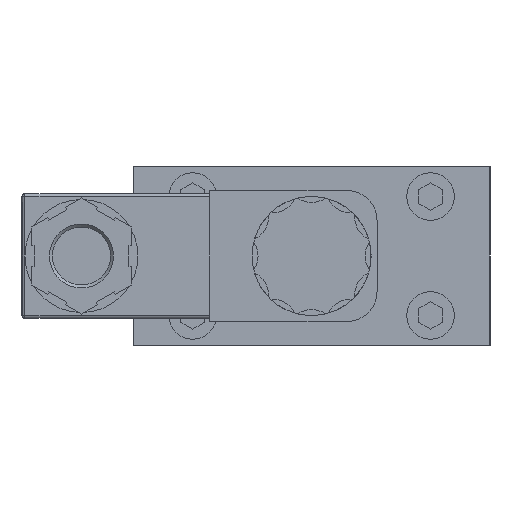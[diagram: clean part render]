
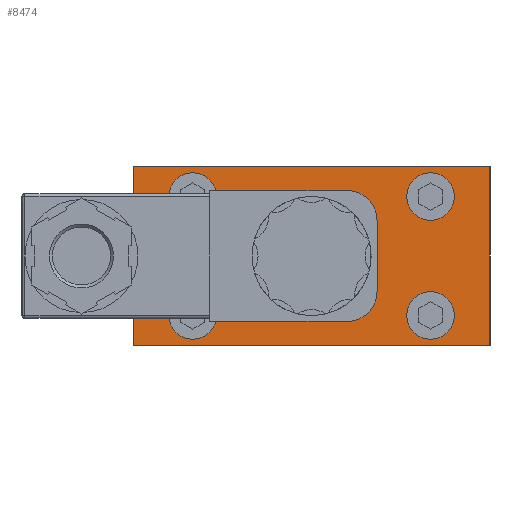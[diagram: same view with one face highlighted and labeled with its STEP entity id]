
A CAD part, left-side view. The second image highlights one B-rep face of the part: STEP entity #8474.
In plain terms, the highlighted planar face has unit normal (-1, 0, 0).
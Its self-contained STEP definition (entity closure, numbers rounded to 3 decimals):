
#448=CIRCLE('',#8981,8.);
#459=CIRCLE('',#9043,4.);
#460=CIRCLE('',#9045,4.);
#461=CIRCLE('',#9051,4.);
#462=CIRCLE('',#9053,4.);
#2024=ORIENTED_EDGE('',*,*,#2686,.F.);
#2025=ORIENTED_EDGE('',*,*,#2817,.T.);
#2026=ORIENTED_EDGE('',*,*,#2816,.T.);
#2027=ORIENTED_EDGE('',*,*,#2815,.T.);
#2028=ORIENTED_EDGE('',*,*,#2813,.T.);
#2029=ORIENTED_EDGE('',*,*,#2811,.T.);
#2030=ORIENTED_EDGE('',*,*,#2809,.T.);
#2031=ORIENTED_EDGE('',*,*,#2807,.T.);
#2032=ORIENTED_EDGE('',*,*,#2806,.T.);
#2686=EDGE_CURVE('',#3286,#3286,#448,.T.);
#2806=EDGE_CURVE('',#3371,#3371,#459,.T.);
#2807=EDGE_CURVE('',#3372,#3372,#460,.T.);
#2809=EDGE_CURVE('',#3374,#3373,#3874,.T.);
#2811=EDGE_CURVE('',#3375,#3374,#3876,.T.);
#2813=EDGE_CURVE('',#3376,#3375,#3878,.T.);
#2815=EDGE_CURVE('',#3373,#3376,#3880,.T.);
#2816=EDGE_CURVE('',#3377,#3377,#461,.T.);
#2817=EDGE_CURVE('',#3378,#3378,#462,.T.);
#3286=VERTEX_POINT('',#12575);
#3371=VERTEX_POINT('',#13077);
#3372=VERTEX_POINT('',#13080);
#3373=VERTEX_POINT('',#13083);
#3374=VERTEX_POINT('',#13085);
#3375=VERTEX_POINT('',#13089);
#3376=VERTEX_POINT('',#13093);
#3377=VERTEX_POINT('',#13099);
#3378=VERTEX_POINT('',#13102);
#3874=LINE('',#13084,#4376);
#3876=LINE('',#13088,#4378);
#3878=LINE('',#13092,#4380);
#3880=LINE('',#13096,#4382);
#4376=VECTOR('',#10663,1000.);
#4378=VECTOR('',#10667,1000.);
#4380=VECTOR('',#10671,1000.);
#4382=VECTOR('',#10675,1000.);
#4890=EDGE_LOOP('',(#2024));
#4891=EDGE_LOOP('',(#2025));
#4892=EDGE_LOOP('',(#2026));
#4893=EDGE_LOOP('',(#2027,#2028,#2029,#2030));
#4894=EDGE_LOOP('',(#2031));
#4895=EDGE_LOOP('',(#2032));
#5410=FACE_BOUND('',#4890,.T.);
#5411=FACE_BOUND('',#4891,.T.);
#5412=FACE_BOUND('',#4892,.T.);
#5413=FACE_BOUND('',#4893,.T.);
#5414=FACE_BOUND('',#4894,.T.);
#5415=FACE_BOUND('',#4895,.T.);
#5631=PLANE('',#9054);
#8474=ADVANCED_FACE('',(#5410,#5411,#5412,#5413,#5414,#5415),#5631,.T.);
#8981=AXIS2_PLACEMENT_3D('',#12574,#10429,#10430);
#9043=AXIS2_PLACEMENT_3D('',#13076,#10654,#10655);
#9045=AXIS2_PLACEMENT_3D('',#13079,#10658,#10659);
#9051=AXIS2_PLACEMENT_3D('',#13098,#10678,#10679);
#9053=AXIS2_PLACEMENT_3D('',#13101,#10682,#10683);
#9054=AXIS2_PLACEMENT_3D('',#13103,#10684,#10685);
#10429=DIRECTION('',(-1.,0.,0.));
#10430=DIRECTION('',(0.,-1.,0.));
#10654=DIRECTION('',(1.,0.,0.));
#10655=DIRECTION('',(0.,1.,0.));
#10658=DIRECTION('',(1.,0.,0.));
#10659=DIRECTION('',(0.,1.,0.));
#10663=DIRECTION('',(0.,1.,0.));
#10667=DIRECTION('',(0.,0.,1.));
#10671=DIRECTION('',(0.,-1.,0.));
#10675=DIRECTION('',(0.,0.,-1.));
#10678=DIRECTION('',(1.,0.,0.));
#10679=DIRECTION('',(0.,1.,0.));
#10682=DIRECTION('',(1.,0.,0.));
#10683=DIRECTION('',(0.,1.,0.));
#10684=DIRECTION('',(-1.,0.,0.));
#10685=DIRECTION('',(0.,-1.,0.));
#12574=CARTESIAN_POINT('',(-98.,0.,0.));
#12575=CARTESIAN_POINT('',(-98.,-8.,0.));
#13076=CARTESIAN_POINT('',(-98.,20.,10.));
#13077=CARTESIAN_POINT('',(-98.,24.,10.));
#13079=CARTESIAN_POINT('',(-98.,-20.,-10.));
#13080=CARTESIAN_POINT('',(-98.,-16.,-10.));
#13083=CARTESIAN_POINT('',(-98.,30.,15.));
#13084=CARTESIAN_POINT('',(-98.,-18.,15.));
#13085=CARTESIAN_POINT('',(-98.,-30.,15.));
#13088=CARTESIAN_POINT('',(-98.,-30.,-11.));
#13089=CARTESIAN_POINT('',(-98.,-30.,-15.));
#13092=CARTESIAN_POINT('',(-98.,18.,-15.));
#13093=CARTESIAN_POINT('',(-98.,30.,-15.));
#13096=CARTESIAN_POINT('',(-98.,30.,11.));
#13098=CARTESIAN_POINT('',(-98.,-20.,10.));
#13099=CARTESIAN_POINT('',(-98.,-16.,10.));
#13101=CARTESIAN_POINT('',(-98.,20.,-10.));
#13102=CARTESIAN_POINT('',(-98.,24.,-10.));
#13103=CARTESIAN_POINT('',(-98.,18.,-11.));
